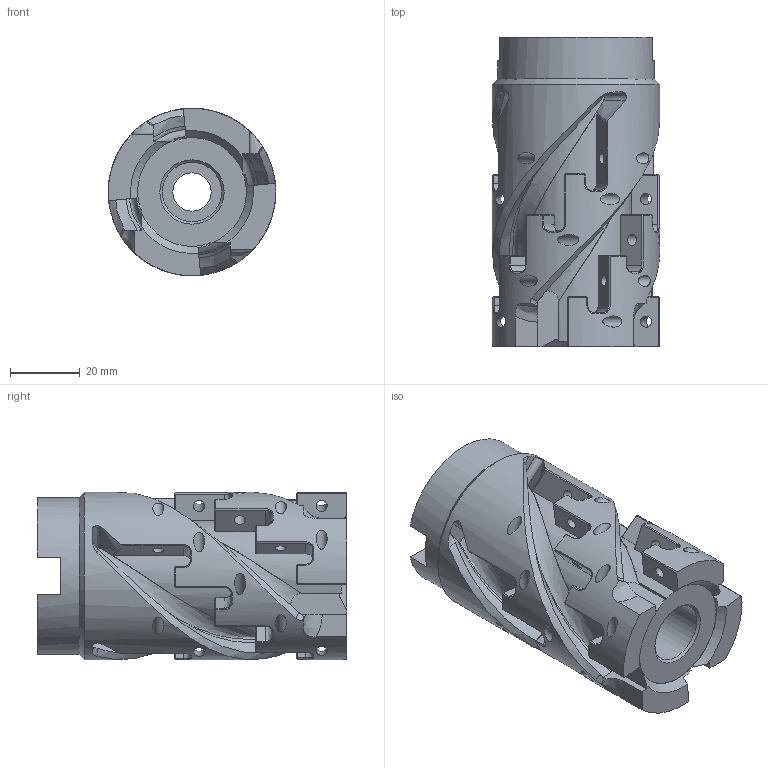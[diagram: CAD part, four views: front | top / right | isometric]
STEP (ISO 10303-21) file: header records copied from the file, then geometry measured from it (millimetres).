
FILE_DESCRIPTION(/* description */ (''),/* implementation_level */ '2;1');
FILE_NAME(/* name */ 'Z:\Проектный отдел\Влад\Фрезы\Кукуруза.stp',/* time_stamp */ '2023-03-21T12:01:51+03:00',/* author */ ('инженер'),/* organization */ (''),/* preprocessor_version */ 'ST-DEVELOPER v18',/* originating_system */ 'Autodesk Inventor 2020',/* authorisation */ '');
FILE_SCHEMA (('AUTOMOTIVE_DESIGN { 1 0 10303 214 3 1 1 }'));
Length unit declared in the file: millimetre
Products named in the file (1): Кукуруза
Bounding box: 48 x 88.7 x 48 mm (x, y, z)
Volume: 102858 mm3; surface area: 29202.4 mm2
Topology: 1 solids, 1 shells, 400 faces, 1072 edges, 674 vertices
Faces by surface type: plane 221, bspline 104, cone 38, cylinder 37
Full cylindrical faces by diameter (mm): 3.2 x20, 11 x1, 17 x1, 21.9 x1, 45 x1, 48 x1
Entity records: 16785 total; most frequent: CARTESIAN_POINT 7460, ORIENTED_EDGE 2144, DIRECTION 1610, EDGE_CURVE 1072, VERTEX_POINT 674, AXIS2_PLACEMENT_3D 546, LINE 518, VECTOR 518
